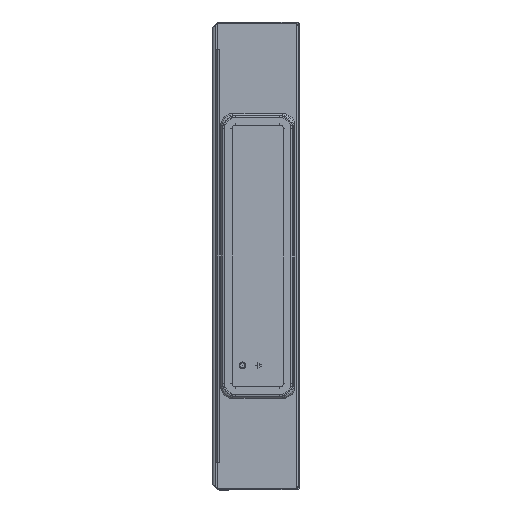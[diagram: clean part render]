
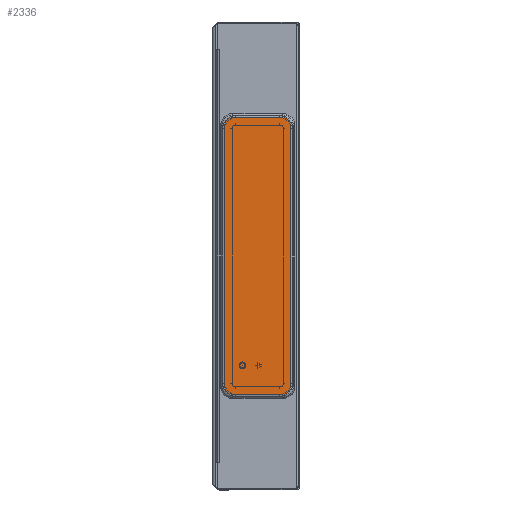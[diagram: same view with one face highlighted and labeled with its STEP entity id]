
A CAD part, left-side view. The second image highlights one B-rep face of the part: STEP entity #2336.
In plain terms, the highlighted planar face has unit normal (-1, 0, 0) as drawn and (0, 0, -1) by its records, which use the part's own axes.
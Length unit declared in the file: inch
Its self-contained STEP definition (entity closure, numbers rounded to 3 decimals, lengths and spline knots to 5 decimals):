
#490 = EDGE_CURVE ( 'NONE', #3488, #3484, #5173, .T. ) ;
#492 = EDGE_CURVE ( 'NONE', #3492, #3491, #5176, .T. ) ;
#493 = EDGE_CURVE ( 'NONE', #3484, #3481, #5161, .T. ) ;
#494 = EDGE_CURVE ( 'NONE', #3495, #3492, #5177, .T. ) ;
#495 = EDGE_CURVE ( 'NONE', #3500, #3495, #5181, .T. ) ;
#496 = EDGE_CURVE ( 'NONE', #3491, #3488, #5170, .T. ) ;
#497 = EDGE_CURVE ( 'NONE', #3481, #3478, #5184, .T. ) ;
#498 = EDGE_CURVE ( 'NONE', #3478, #3500, #5174, .T. ) ;
#1233 = ORIENTED_EDGE ( 'NONE', *, *, #495, .T. ) ;
#1234 = ORIENTED_EDGE ( 'NONE', *, *, #494, .T. ) ;
#1235 = ORIENTED_EDGE ( 'NONE', *, *, #492, .T. ) ;
#1236 = ORIENTED_EDGE ( 'NONE', *, *, #496, .T. ) ;
#1237 = ORIENTED_EDGE ( 'NONE', *, *, #490, .T. ) ;
#1238 = ORIENTED_EDGE ( 'NONE', *, *, #493, .T. ) ;
#1239 = ORIENTED_EDGE ( 'NONE', *, *, #497, .T. ) ;
#1240 = ORIENTED_EDGE ( 'NONE', *, *, #498, .T. ) ;
#1908 = AXIS2_PLACEMENT_3D ( 'NONE', #5982, #5957, #5953 ) ;
#2336 = ADVANCED_FACE ( 'NONE', ( #5100 ), #5978, .T. ) ;
#3478 = VERTEX_POINT ( 'NONE', #7252 ) ;
#3481 = VERTEX_POINT ( 'NONE', #7249 ) ;
#3484 = VERTEX_POINT ( 'NONE', #7245 ) ;
#3488 = VERTEX_POINT ( 'NONE', #7238 ) ;
#3491 = VERTEX_POINT ( 'NONE', #7235 ) ;
#3492 = VERTEX_POINT ( 'NONE', #7234 ) ;
#3495 = VERTEX_POINT ( 'NONE', #7228 ) ;
#3500 = VERTEX_POINT ( 'NONE', #7221 ) ;
#4623 = AXIS2_PLACEMENT_3D ( 'NONE', #12006, #12034, #11892 ) ;
#4626 = AXIS2_PLACEMENT_3D ( 'NONE', #11880, #12100, #12056 ) ;
#4630 = AXIS2_PLACEMENT_3D ( 'NONE', #11905, #11907, #11908 ) ;
#4632 = AXIS2_PLACEMENT_3D ( 'NONE', #12005, #11997, #12066 ) ;
#4990 = EDGE_LOOP ( 'NONE', ( #1233, #1234, #1235, #1236, #1237, #1238, #1239, #1240 ) ) ;
#5100 = FACE_OUTER_BOUND ( 'NONE', #4990, .T. ) ;
#5161 = LINE ( 'NONE', #11909, #5168 ) ;
#5168 = VECTOR ( 'NONE', #11911, 39.37008 ) ;
#5170 = LINE ( 'NONE', #12040, #5175 ) ;
#5173 = CIRCLE ( 'NONE', #4626, 0.378 ) ;
#5174 = LINE ( 'NONE', #12000, #5180 ) ;
#5175 = VECTOR ( 'NONE', #11893, 39.37008 ) ;
#5176 = CIRCLE ( 'NONE', #4630, 0.378 ) ;
#5177 = LINE ( 'NONE', #11890, #5178 ) ;
#5178 = VECTOR ( 'NONE', #11891, 39.37008 ) ;
#5180 = VECTOR ( 'NONE', #12015, 39.37008 ) ;
#5181 = CIRCLE ( 'NONE', #4623, 0.378 ) ;
#5184 = CIRCLE ( 'NONE', #4632, 0.378 ) ;
#5953 = DIRECTION ( 'NONE',  ( -1., 0., 0. ) ) ;
#5957 = DIRECTION ( 'NONE',  ( 0., 0., -1. ) ) ;
#5978 = PLANE ( 'NONE',  #1908 ) ;
#5982 = CARTESIAN_POINT ( 'NONE',  ( -6.125, 1.175, 0. ) ) ;
#7221 = CARTESIAN_POINT ( 'NONE',  ( -6.125, -1.553, 0. ) ) ;
#7228 = CARTESIAN_POINT ( 'NONE',  ( -6.503, -1.175, 0. ) ) ;
#7234 = CARTESIAN_POINT ( 'NONE',  ( -6.503, 1.175, 0. ) ) ;
#7235 = CARTESIAN_POINT ( 'NONE',  ( -6.125, 1.553, 0. ) ) ;
#7238 = CARTESIAN_POINT ( 'NONE',  ( 6.125, 1.553, 0. ) ) ;
#7245 = CARTESIAN_POINT ( 'NONE',  ( 6.503, 1.175, 0. ) ) ;
#7249 = CARTESIAN_POINT ( 'NONE',  ( 6.503, -1.175, 0. ) ) ;
#7252 = CARTESIAN_POINT ( 'NONE',  ( 6.125, -1.553, 0. ) ) ;
#11880 = CARTESIAN_POINT ( 'NONE',  ( 6.125, 1.175, 0. ) ) ;
#11890 = CARTESIAN_POINT ( 'NONE',  ( -6.503, 1.175, 0. ) ) ;
#11891 = DIRECTION ( 'NONE',  ( 0., 1., 0. ) ) ;
#11892 = DIRECTION ( 'NONE',  ( -1., 0., 0. ) ) ;
#11893 = DIRECTION ( 'NONE',  ( 1., 0., 0. ) ) ;
#11905 = CARTESIAN_POINT ( 'NONE',  ( -6.125, 1.175, 0. ) ) ;
#11907 = DIRECTION ( 'NONE',  ( 0., 0., -1. ) ) ;
#11908 = DIRECTION ( 'NONE',  ( -1., 0., 0. ) ) ;
#11909 = CARTESIAN_POINT ( 'NONE',  ( 6.503, -1.175, 0. ) ) ;
#11911 = DIRECTION ( 'NONE',  ( 0., -1., 0. ) ) ;
#11997 = DIRECTION ( 'NONE',  ( 0., 0., -1. ) ) ;
#12000 = CARTESIAN_POINT ( 'NONE',  ( -6.125, -1.553, 0. ) ) ;
#12005 = CARTESIAN_POINT ( 'NONE',  ( 6.125, -1.175, 0. ) ) ;
#12006 = CARTESIAN_POINT ( 'NONE',  ( -6.125, -1.175, 0. ) ) ;
#12015 = DIRECTION ( 'NONE',  ( -1., 0., 0. ) ) ;
#12034 = DIRECTION ( 'NONE',  ( 0., 0., -1. ) ) ;
#12040 = CARTESIAN_POINT ( 'NONE',  ( 6.125, 1.553, 0. ) ) ;
#12056 = DIRECTION ( 'NONE',  ( -1., 0., 0. ) ) ;
#12066 = DIRECTION ( 'NONE',  ( -1., 0., 0. ) ) ;
#12100 = DIRECTION ( 'NONE',  ( 0., 0., -1. ) ) ;
